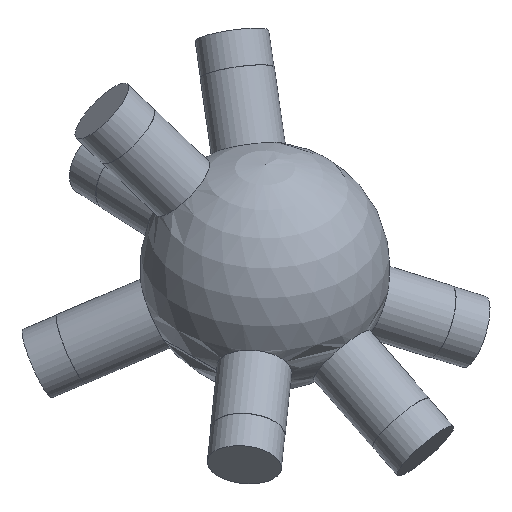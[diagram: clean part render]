
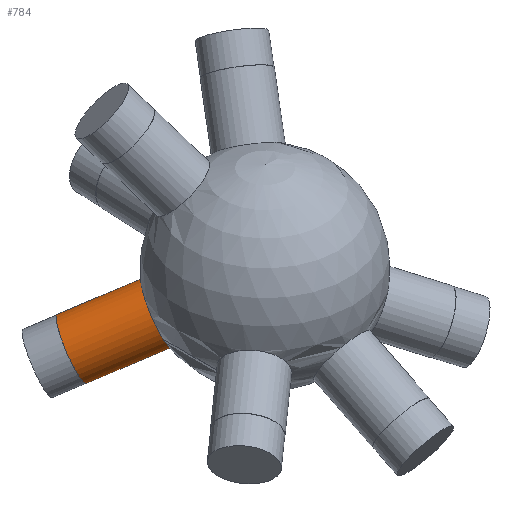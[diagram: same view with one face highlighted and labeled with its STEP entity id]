
A CAD part, isometric view. The second image highlights one B-rep face of the part: STEP entity #784.
In plain terms, the highlighted cylindrical face has radius 6 mm (diameter 12 mm), a full revolution.
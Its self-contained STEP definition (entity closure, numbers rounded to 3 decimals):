
#35 = SPHERICAL_SURFACE('',#36,20.);
#36 = AXIS2_PLACEMENT_3D('',#37,#38,#39);
#37 = CARTESIAN_POINT('',(0.,0.,0.));
#38 = DIRECTION('',(0.,0.,1.));
#39 = DIRECTION('',(1.,0.,-0.));
#116 = EDGE_CURVE('',#117,#117,#119,.T.);
#117 = VERTEX_POINT('',#118);
#118 = CARTESIAN_POINT('',(-17.315,6.347,
    -7.739));
#119 = SURFACE_CURVE('',#120,(#125,#187),.PCURVE_S1.);
#120 = CIRCLE('',#121,6.);
#121 = AXIS2_PLACEMENT_3D('',#122,#123,#124);
#122 = CARTESIAN_POINT('',(-13.53,11.002,
    -7.739));
#123 = DIRECTION('',(-0.709,0.577,-0.406));
#124 = DIRECTION('',(-0.631,-0.776,0.)
  );
#125 = PCURVE('',#35,#126);
#126 = DEFINITIONAL_REPRESENTATION('',(#127),#186);
#127 = B_SPLINE_CURVE_WITH_KNOTS('',8,(#128,#129,#130,#131,#132,#133,
    #134,#135,#136,#137,#138,#139,#140,#141,#142,#143,#144,#145,#146,
    #147,#148,#149,#150,#151,#152,#153,#154,#155,#156,#157,#158,#159,
    #160,#161,#162,#163,#164,#165,#166,#167,#168,#169,#170,#171,#172,
    #173,#174,#175,#176,#177,#178,#179,#180,#181,#182,#183,#184,#185),
  .UNSPECIFIED.,.F.,.F.,(9,7,7,7,7,7,7,7,9),(0.,0.785,
    1.473,2.675,3.577,4.254,
    4.761,5.522,6.283),.UNSPECIFIED.);
#128 = CARTESIAN_POINT('',(2.79,-0.397));
#129 = CARTESIAN_POINT('',(2.786,-0.368));
#130 = CARTESIAN_POINT('',(2.779,-0.339));
#131 = CARTESIAN_POINT('',(2.768,-0.311));
#132 = CARTESIAN_POINT('',(2.755,-0.284));
#133 = CARTESIAN_POINT('',(2.738,-0.259));
#134 = CARTESIAN_POINT('',(2.72,-0.235));
#135 = CARTESIAN_POINT('',(2.699,-0.214));
#136 = CARTESIAN_POINT('',(2.657,-0.177));
#137 = CARTESIAN_POINT('',(2.636,-0.162));
#138 = CARTESIAN_POINT('',(2.613,-0.149));
#139 = CARTESIAN_POINT('',(2.59,-0.137));
#140 = CARTESIAN_POINT('',(2.565,-0.128));
#141 = CARTESIAN_POINT('',(2.54,-0.121));
#142 = CARTESIAN_POINT('',(2.514,-0.117));
#143 = CARTESIAN_POINT('',(2.443,-0.11));
#144 = CARTESIAN_POINT('',(2.397,-0.113));
#145 = CARTESIAN_POINT('',(2.352,-0.124));
#146 = CARTESIAN_POINT('',(2.309,-0.141));
#147 = CARTESIAN_POINT('',(2.269,-0.165));
#148 = CARTESIAN_POINT('',(2.233,-0.194));
#149 = CARTESIAN_POINT('',(2.202,-0.229));
#150 = CARTESIAN_POINT('',(2.159,-0.295));
#151 = CARTESIAN_POINT('',(2.143,-0.326));
#152 = CARTESIAN_POINT('',(2.132,-0.359));
#153 = CARTESIAN_POINT('',(2.124,-0.392));
#154 = CARTESIAN_POINT('',(2.12,-0.426));
#155 = CARTESIAN_POINT('',(2.122,-0.461));
#156 = CARTESIAN_POINT('',(2.128,-0.494));
#157 = CARTESIAN_POINT('',(2.147,-0.551));
#158 = CARTESIAN_POINT('',(2.158,-0.575));
#159 = CARTESIAN_POINT('',(2.173,-0.597));
#160 = CARTESIAN_POINT('',(2.19,-0.619));
#161 = CARTESIAN_POINT('',(2.21,-0.638));
#162 = CARTESIAN_POINT('',(2.233,-0.656));
#163 = CARTESIAN_POINT('',(2.259,-0.672));
#164 = CARTESIAN_POINT('',(2.307,-0.695));
#165 = CARTESIAN_POINT('',(2.33,-0.704));
#166 = CARTESIAN_POINT('',(2.353,-0.711));
#167 = CARTESIAN_POINT('',(2.377,-0.716));
#168 = CARTESIAN_POINT('',(2.402,-0.72));
#169 = CARTESIAN_POINT('',(2.428,-0.723));
#170 = CARTESIAN_POINT('',(2.453,-0.723));
#171 = CARTESIAN_POINT('',(2.516,-0.72));
#172 = CARTESIAN_POINT('',(2.554,-0.715));
#173 = CARTESIAN_POINT('',(2.59,-0.706));
#174 = CARTESIAN_POINT('',(2.624,-0.693));
#175 = CARTESIAN_POINT('',(2.655,-0.677));
#176 = CARTESIAN_POINT('',(2.683,-0.658));
#177 = CARTESIAN_POINT('',(2.707,-0.637));
#178 = CARTESIAN_POINT('',(2.748,-0.591));
#179 = CARTESIAN_POINT('',(2.765,-0.566));
#180 = CARTESIAN_POINT('',(2.778,-0.539));
#181 = CARTESIAN_POINT('',(2.787,-0.511));
#182 = CARTESIAN_POINT('',(2.793,-0.483));
#183 = CARTESIAN_POINT('',(2.795,-0.454));
#184 = CARTESIAN_POINT('',(2.794,-0.426));
#185 = CARTESIAN_POINT('',(2.79,-0.397));
#186 = ( GEOMETRIC_REPRESENTATION_CONTEXT(2) 
PARAMETRIC_REPRESENTATION_CONTEXT() REPRESENTATION_CONTEXT('2D SPACE',''
  ) );
#187 = PCURVE('',#188,#193);
#188 = CYLINDRICAL_SURFACE('',#189,6.);
#189 = AXIS2_PLACEMENT_3D('',#190,#191,#192);
#190 = CARTESIAN_POINT('',(0.,0.,0.));
#191 = DIRECTION('',(-0.709,0.577,-0.406));
#192 = DIRECTION('',(-0.631,-0.776,0.)
  );
#193 = DEFINITIONAL_REPRESENTATION('',(#194),#198);
#194 = LINE('',#195,#196);
#195 = CARTESIAN_POINT('',(0.,19.079));
#196 = VECTOR('',#197,1.);
#197 = DIRECTION('',(1.,0.));
#198 = ( GEOMETRIC_REPRESENTATION_CONTEXT(2) 
PARAMETRIC_REPRESENTATION_CONTEXT() REPRESENTATION_CONTEXT('2D SPACE',''
  ) );
#784 = ADVANCED_FACE('',(#785),#188,.T.);
#785 = FACE_BOUND('',#786,.T.);
#786 = EDGE_LOOP('',(#787,#810,#837,#838));
#787 = ORIENTED_EDGE('',*,*,#788,.T.);
#788 = EDGE_CURVE('',#117,#789,#791,.T.);
#789 = VERTEX_POINT('',#790);
#790 = CARTESIAN_POINT('',(-27.891,14.948,
    -13.789));
#791 = SEAM_CURVE('',#792,(#796,#803),.PCURVE_S1.);
#792 = LINE('',#793,#794);
#793 = CARTESIAN_POINT('',(-3.786,-4.655,
    0.));
#794 = VECTOR('',#795,1.);
#795 = DIRECTION('',(-0.709,0.577,-0.406));
#796 = PCURVE('',#188,#797);
#797 = DEFINITIONAL_REPRESENTATION('',(#798),#802);
#798 = LINE('',#799,#800);
#799 = CARTESIAN_POINT('',(6.283,-0.));
#800 = VECTOR('',#801,1.);
#801 = DIRECTION('',(0.,1.));
#802 = ( GEOMETRIC_REPRESENTATION_CONTEXT(2) 
PARAMETRIC_REPRESENTATION_CONTEXT() REPRESENTATION_CONTEXT('2D SPACE',''
  ) );
#803 = PCURVE('',#188,#804);
#804 = DEFINITIONAL_REPRESENTATION('',(#805),#809);
#805 = LINE('',#806,#807);
#806 = CARTESIAN_POINT('',(0.,-0.));
#807 = VECTOR('',#808,1.);
#808 = DIRECTION('',(0.,1.));
#809 = ( GEOMETRIC_REPRESENTATION_CONTEXT(2) 
PARAMETRIC_REPRESENTATION_CONTEXT() REPRESENTATION_CONTEXT('2D SPACE',''
  ) );
#810 = ORIENTED_EDGE('',*,*,#811,.F.);
#811 = EDGE_CURVE('',#789,#789,#812,.T.);
#812 = SURFACE_CURVE('',#813,(#818,#825),.PCURVE_S1.);
#813 = CIRCLE('',#814,6.);
#814 = AXIS2_PLACEMENT_3D('',#815,#816,#817);
#815 = CARTESIAN_POINT('',(-24.106,19.603,
    -13.789));
#816 = DIRECTION('',(-0.709,0.577,-0.406));
#817 = DIRECTION('',(-0.631,-0.776,0.)
  );
#818 = PCURVE('',#188,#819);
#819 = DEFINITIONAL_REPRESENTATION('',(#820),#824);
#820 = LINE('',#821,#822);
#821 = CARTESIAN_POINT('',(0.,33.993));
#822 = VECTOR('',#823,1.);
#823 = DIRECTION('',(1.,0.));
#824 = ( GEOMETRIC_REPRESENTATION_CONTEXT(2) 
PARAMETRIC_REPRESENTATION_CONTEXT() REPRESENTATION_CONTEXT('2D SPACE',''
  ) );
#825 = PCURVE('',#826,#831);
#826 = PLANE('',#827);
#827 = AXIS2_PLACEMENT_3D('',#828,#829,#830);
#828 = CARTESIAN_POINT('',(-24.106,19.603,
    -13.789));
#829 = DIRECTION('',(-0.709,0.577,-0.406));
#830 = DIRECTION('',(-0.631,-0.776,0.)
  );
#831 = DEFINITIONAL_REPRESENTATION('',(#832),#836);
#832 = CIRCLE('',#833,6.);
#833 = AXIS2_PLACEMENT_2D('',#834,#835);
#834 = CARTESIAN_POINT('',(0.,0.));
#835 = DIRECTION('',(1.,0.));
#836 = ( GEOMETRIC_REPRESENTATION_CONTEXT(2) 
PARAMETRIC_REPRESENTATION_CONTEXT() REPRESENTATION_CONTEXT('2D SPACE',''
  ) );
#837 = ORIENTED_EDGE('',*,*,#788,.F.);
#838 = ORIENTED_EDGE('',*,*,#116,.T.);
